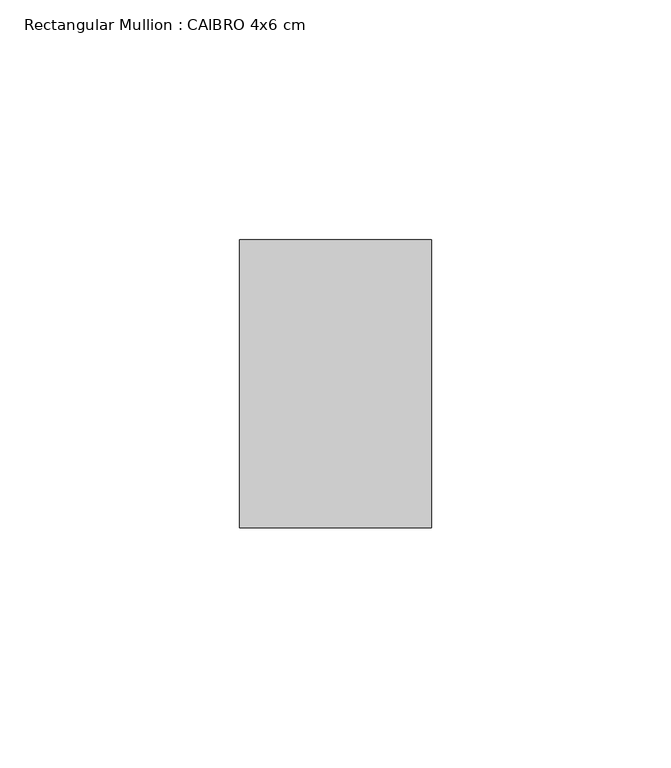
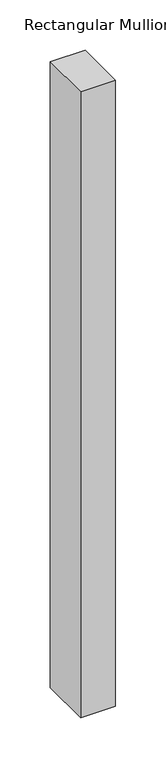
"""IFC4 building model written with IfcOpenShell, lengths in millimetres: member geometry, Rectangular Mullion : CAIBRO 4x6 cm."""

import ifcopenshell
import ifcopenshell.guid

model = None  # the IFC model being written
_history = None  # IfcOwnerHistory: only IFC2X3 demands one
_inside = {}  # id of a spatial element -> (the spatial element, [elements in it])
_under = {}  # id of a project, library or spatial element -> (it, [spatial elements below it])
_declared = {}  # id of a project -> (the project, [libraries it declares])
_typed = {}  # id of a type object -> (the type object, [elements of that type])
_made_of = {}  # id of a material, layer set ... -> (it, [elements and type objects made of it])


def new_model(schema):
    """Start an empty IFC model of exactly this schema.

    Asked for "IFC4X3", IfcOpenShell would pick the latest addendum, in which some entities
    have other attributes; the version numbers below select the first issue.
    IFC2X3 requires an IfcOwnerHistory on every rooted entity: one is made here for all.
    """
    global model, _history
    if schema == "IFC4X3":
        model = ifcopenshell.file(schema_version=(4, 3, 0, 0))
    else:
        model = ifcopenshell.file(schema=schema)
    _inside.clear()
    _under.clear()
    _declared.clear()
    _typed.clear()
    _made_of.clear()
    _history = None
    if model.schema == "IFC2X3":
        org = make("IfcOrganization", Name="unknown")
        user = make(
            "IfcPersonAndOrganization",
            ThePerson=make("IfcPerson", FamilyName="unknown"),
            TheOrganization=org,
        )
        app = make(
            "IfcApplication",
            ApplicationDeveloper=org,
            Version="unknown",
            ApplicationFullName="unknown",
            ApplicationIdentifier="unknown",
        )
        _history = make(
            "IfcOwnerHistory",
            OwningUser=user,
            OwningApplication=app,
            ChangeAction="ADDED",
            CreationDate=0,
        )
    return model


def make(cls, **values):
    """One entity of the class cls with the attributes given. An attribute that is None is left unset."""
    return model.create_entity(
        cls, **{name: value for name, value in values.items() if value is not None}
    )


def rooted(cls, **values):
    """An entity with a GlobalId (a new one), such as an element, a storey or a relation."""
    return make(cls, GlobalId=ifcopenshell.guid.new(), OwnerHistory=_history, **values)


def si_unit(unit_type, name, prefix=None):
    """IfcSIUnit, for example si_unit("LENGTHUNIT", "METRE", prefix="MILLI")."""
    return make("IfcSIUnit", UnitType=unit_type, Prefix=prefix, Name=name)


def assignment(units):
    """IfcUnitAssignment: the units of a project."""
    return None if units is None else make("IfcUnitAssignment", Units=units)


def point(xyz):
    """IfcCartesianPoint."""
    return None if xyz is None else make("IfcCartesianPoint", Coordinates=xyz)


def direction(xyz):
    """IfcDirection."""
    return None if xyz is None else make("IfcDirection", DirectionRatios=xyz)


def frame(location, z_axis=None, x_axis=None):
    """IfcAxis2Placement3D, a coordinate frame: its origin and axes. An axis left out is left unset."""
    return make(
        "IfcAxis2Placement3D",
        Location=point(location),
        Axis=direction(z_axis),
        RefDirection=direction(x_axis),
    )


def origin():
    """The frame at (0, 0, 0) with its axes left unset."""
    return frame((0.0, 0.0, 0.0))


def place(relative_to, where):
    """IfcLocalPlacement: puts the frame where relative to a parent placement (None: the world)."""
    return make(
        "IfcLocalPlacement", PlacementRelTo=relative_to, RelativePlacement=where
    )


def context(
    kind, dimensions, precision=None, world=None, true_north=None, identifier=None
):
    """IfcGeometricRepresentationContext, for example the 3D "Model" context."""
    return make(
        "IfcGeometricRepresentationContext",
        ContextIdentifier=identifier,
        ContextType=kind,
        CoordinateSpaceDimension=dimensions,
        Precision=precision,
        WorldCoordinateSystem=world,
        TrueNorth=true_north,
    )


def project(units=None, contexts=None):
    """IfcProject with its units and contexts."""
    return rooted(
        "IfcProject",
        Name="project",
        RepresentationContexts=contexts,
        UnitsInContext=assignment(units),
    )


def spatial(cls, under=None, at=None, **own):
    """A site, building, storey or space (cls), placed at a placement, below another one or the project."""
    s = rooted(cls, ObjectPlacement=at, **own)
    if under is not None:
        _under.setdefault(under.id(), (under, []))[1].append(s)
    return s


def polyline(points):
    """IfcPolyline through the points."""
    return make("IfcPolyline", Points=[point(p) for p in points])


def outline(outer, holes=None, kind="AREA"):
    """IfcArbitraryClosedProfileDef: a profile drawn as a closed curve; with holes, ...WithVoids."""
    if holes is None:
        return make("IfcArbitraryClosedProfileDef", ProfileType=kind, OuterCurve=outer)
    return make(
        "IfcArbitraryProfileDefWithVoids",
        ProfileType=kind,
        OuterCurve=outer,
        InnerCurves=holes,
    )


def extrude(swept, where, along, depth):
    """IfcExtrudedAreaSolid: the profile swept, set in the frame where, extruded along a direction by depth."""
    return make(
        "IfcExtrudedAreaSolid",
        SweptArea=swept,
        Position=where,
        ExtrudedDirection=direction(along),
        Depth=depth,
    )


def shape(context_of_items, identifier, shape_type, items):
    """IfcShapeRepresentation: the items that make up one representation, for example the "Body"."""
    return make(
        "IfcShapeRepresentation",
        ContextOfItems=context_of_items,
        RepresentationIdentifier=identifier,
        RepresentationType=shape_type,
        Items=items,
    )


def source(mapping_origin, context_of_items, identifier, shape_type, items):
    """IfcRepresentationMap: a shape defined once, which mapped items show again and again."""
    return make(
        "IfcRepresentationMap",
        MappingOrigin=mapping_origin,
        MappedRepresentation=shape(context_of_items, identifier, shape_type, items),
    )


def transform(
    local_origin,
    x_axis=None,
    y_axis=None,
    z_axis=None,
    scale=None,
    scale2=None,
    scale3=None,
    uniform=True,
):
    """IfcCartesianTransformationOperator3D, or its non-uniform kind. x_axis, y_axis, z_axis: its Axis1, 2, 3."""
    if uniform:
        return make(
            "IfcCartesianTransformationOperator3D",
            Axis1=direction(x_axis),
            Axis2=direction(y_axis),
            LocalOrigin=point(local_origin),
            Scale=scale,
            Axis3=direction(z_axis),
        )
    return make(
        "IfcCartesianTransformationOperator3DnonUniform",
        Axis1=direction(x_axis),
        Axis2=direction(y_axis),
        LocalOrigin=point(local_origin),
        Scale=scale,
        Axis3=direction(z_axis),
        Scale2=scale2,
        Scale3=scale3,
    )


def mapped(mapping_source, mapping_target):
    """IfcMappedItem: shows the shape of a source again, moved by a transform."""
    return make(
        "IfcMappedItem", MappingSource=mapping_source, MappingTarget=mapping_target
    )


def made_of(thing, what):
    """Note that an element or type object is made of a material, layer set ...; save() writes the relation."""
    if what is not None:
        _made_of.setdefault(what.id(), (what, []))[1].append(thing)
    return thing


def element(
    cls,
    number,
    at=None,
    inside=None,
    cuts=None,
    type_object=None,
    material=None,
    context=None,
    identifier="Body",
    shape_type=None,
    held_by="IfcProductDefinitionShape",
    body=None,
    shapes=None,
    **own,
):
    """One element of the class cls, such as IfcWall. Its Tag is "e" and its number.

    at: its placement. inside: the storey or other place that contains it. cuts: it is an
    opening in that element (IfcRelVoidsElement). A single representation is given by context,
    identifier, shape_type and body (its items); several are given by shapes. held_by: the class
    of the entity that holds the representations. save() writes the other relations.
    """
    e = rooted(cls, Tag="e%d" % number, ObjectPlacement=at, **own)
    if body is not None:
        shapes = [shape(context, identifier, shape_type, body)]
    if shapes is not None:
        e.Representation = make(held_by, Representations=shapes)
    if inside is not None:
        _inside.setdefault(inside.id(), (inside, []))[1].append(e)
    if cuts is not None:
        rooted(
            "IfcRelVoidsElement", RelatingBuildingElement=cuts, RelatedOpeningElement=e
        )
    if type_object is not None:
        _typed.setdefault(type_object.id(), (type_object, []))[1].append(e)
    return made_of(e, material)


def aggregate(whole, parts):
    """IfcRelAggregates: a whole, such as a stair, and the parts it consists of."""
    return rooted("IfcRelAggregates", RelatingObject=whole, RelatedObjects=parts)


def save(model, path):
    """Write the relations noted so far, then the file.

    IfcRelAggregates (storeys below a building ...), IfcRelContainedInSpatialStructure (elements
    in a storey), IfcRelDefinesByType, IfcRelAssociatesMaterial and IfcRelDeclares: one each for
    every whole, place, type object, material and project.
    """
    for whole, parts in _under.values():
        aggregate(whole, parts)
    for where, things in _inside.values():
        rooted(
            "IfcRelContainedInSpatialStructure",
            RelatedElements=things,
            RelatingStructure=where,
        )
    for kind, things in _typed.values():
        rooted("IfcRelDefinesByType", RelatedObjects=things, RelatingType=kind)
    for what, things in _made_of.values():
        rooted("IfcRelAssociatesMaterial", RelatedObjects=things, RelatingMaterial=what)
    for by, libraries in _declared.values():
        rooted("IfcRelDeclares", RelatingContext=by, RelatedDefinitions=libraries)
    model.write(path)


def rectangular_mullion_caibro_4x6_cm_abc5e238(model_context):
    return source(origin(), model_context, "Body", "SweptSolid", [
        extrude(outline(polyline([(0.0, 60.0), (0.0, 0.0), (-40.0, 0.0), (-40.0, 60.0), (0.0, 60.0)])), frame((0.0, 0.0, -758.3905656), z_axis=(0.0, 0.0, 1.0), x_axis=(1.0, 0.0, 0.0)), (0.0, 0.0, 1.0), 758.3905656),
    ])


if __name__ == "__main__":
    model = new_model("IFC4")
    model_context = context("Model", 3, world=origin())
    ifc_project = project(units=[si_unit("LENGTHUNIT", "METRE", prefix="MILLI")], contexts=[model_context])
    site = spatial("IfcSite", under=ifc_project)
    building = spatial("IfcBuilding", under=site)
    placement = place(None, origin())
    rectangular_mullion_caibro_4x6_cm_shape = rectangular_mullion_caibro_4x6_cm_abc5e238(model_context)
    element("IfcMember", 1, ObjectType="Rectangular Mullion : CAIBRO 4x6 cm", at=placement, inside=building, context=model_context, shape_type="MappedRepresentation", body=[
        mapped(rectangular_mullion_caibro_4x6_cm_shape, transform((0.0, 0.0, 0.0), x_axis=(1.0, 0.0, 0.0), y_axis=(0.0, 1.0, 0.0), z_axis=(0.0, 0.0, 1.0))),
    ])
    save(model, "model.ifc")
